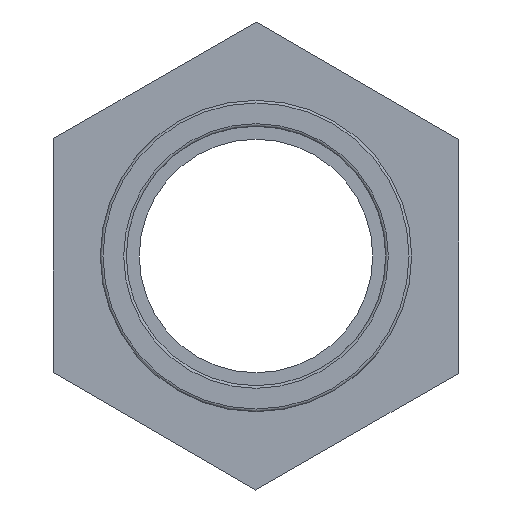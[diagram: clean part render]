
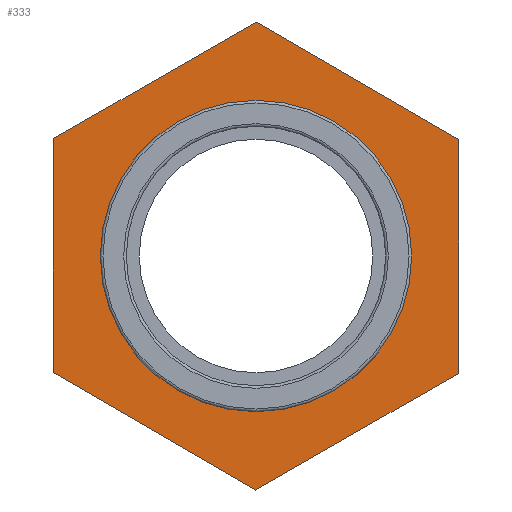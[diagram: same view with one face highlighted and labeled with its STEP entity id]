
A CAD part, left-side view. The second image highlights one B-rep face of the part: STEP entity #333.
In plain terms, the highlighted planar face has unit normal (-1, 0, 0).
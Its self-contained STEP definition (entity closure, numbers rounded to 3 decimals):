
#17=LINE('',#517,#35);
#21=LINE('',#525,#39);
#24=LINE('',#531,#42);
#27=LINE('',#538,#45);
#31=LINE('',#545,#49);
#33=LINE('',#548,#51);
#35=VECTOR('',#425,14.434);
#39=VECTOR('',#431,14.434);
#42=VECTOR('',#436,14.434);
#45=VECTOR('',#441,14.434);
#49=VECTOR('',#447,14.434);
#51=VECTOR('',#451,14.434);
#70=PLANE('',#376);
#88=FACE_BOUND('',#154,.T.);
#112=FACE_OUTER_BOUND('',#153,.T.);
#153=EDGE_LOOP('',(#299,#300,#301,#302,#303,#304));
#154=EDGE_LOOP('',(#305));
#166=CIRCLE('',#357,9.6);
#183=VERTEX_POINT('',#512);
#184=VERTEX_POINT('',#515);
#185=VERTEX_POINT('',#516);
#188=VERTEX_POINT('',#524);
#190=VERTEX_POINT('',#530);
#192=VERTEX_POINT('',#536);
#193=VERTEX_POINT('',#537);
#212=EDGE_CURVE('',#183,#183,#166,.T.);
#213=EDGE_CURVE('',#184,#185,#17,.T.);
#217=EDGE_CURVE('',#185,#188,#21,.T.);
#220=EDGE_CURVE('',#188,#190,#24,.T.);
#223=EDGE_CURVE('',#192,#193,#27,.T.);
#227=EDGE_CURVE('',#193,#184,#31,.T.);
#229=EDGE_CURVE('',#190,#192,#33,.T.);
#299=ORIENTED_EDGE('',*,*,#227,.F.);
#300=ORIENTED_EDGE('',*,*,#223,.F.);
#301=ORIENTED_EDGE('',*,*,#229,.F.);
#302=ORIENTED_EDGE('',*,*,#220,.F.);
#303=ORIENTED_EDGE('',*,*,#217,.F.);
#304=ORIENTED_EDGE('',*,*,#213,.F.);
#305=ORIENTED_EDGE('',*,*,#212,.F.);
#333=ADVANCED_FACE('',(#112,#88),#70,.T.);
#357=AXIS2_PLACEMENT_3D('',#513,#421,#422);
#376=AXIS2_PLACEMENT_3D('',#567,#477,#478);
#421=DIRECTION('center_axis',(-1.,0.,0.));
#422=DIRECTION('ref_axis',(0.,0.,1.));
#425=DIRECTION('',(0.,0.003,-1.));
#431=DIRECTION('',(0.,0.867,-0.498));
#436=DIRECTION('',(0.,0.865,0.502));
#441=DIRECTION('',(0.,-0.867,0.498));
#447=DIRECTION('',(0.,-0.865,-0.502));
#451=DIRECTION('',(0.,-0.003,1.));
#477=DIRECTION('center_axis',(-1.,0.,0.));
#478=DIRECTION('ref_axis',(0.,0.,1.));
#512=CARTESIAN_POINT('',(-6.1,-9.6,0.));
#513=CARTESIAN_POINT('Origin',(-6.1,0.,0.));
#515=CARTESIAN_POINT('',(-6.1,-12.52,7.182));
#516=CARTESIAN_POINT('',(-6.1,-12.48,-7.252));
#517=CARTESIAN_POINT('',(-6.1,-12.49,-3.643));
#524=CARTESIAN_POINT('',(-6.1,0.04,-14.434));
#525=CARTESIAN_POINT('',(-6.1,-3.09,-12.638));
#530=CARTESIAN_POINT('',(-6.1,12.52,-7.182));
#531=CARTESIAN_POINT('',(-6.1,9.4,-8.995));
#536=CARTESIAN_POINT('',(-6.1,12.48,7.252));
#537=CARTESIAN_POINT('',(-6.1,-0.04,14.434));
#538=CARTESIAN_POINT('',(-6.1,3.09,12.638));
#545=CARTESIAN_POINT('',(-6.1,-9.4,8.995));
#548=CARTESIAN_POINT('',(-6.1,12.5,0.035));
#567=CARTESIAN_POINT('Origin',(-6.1,-9.6,0.));
